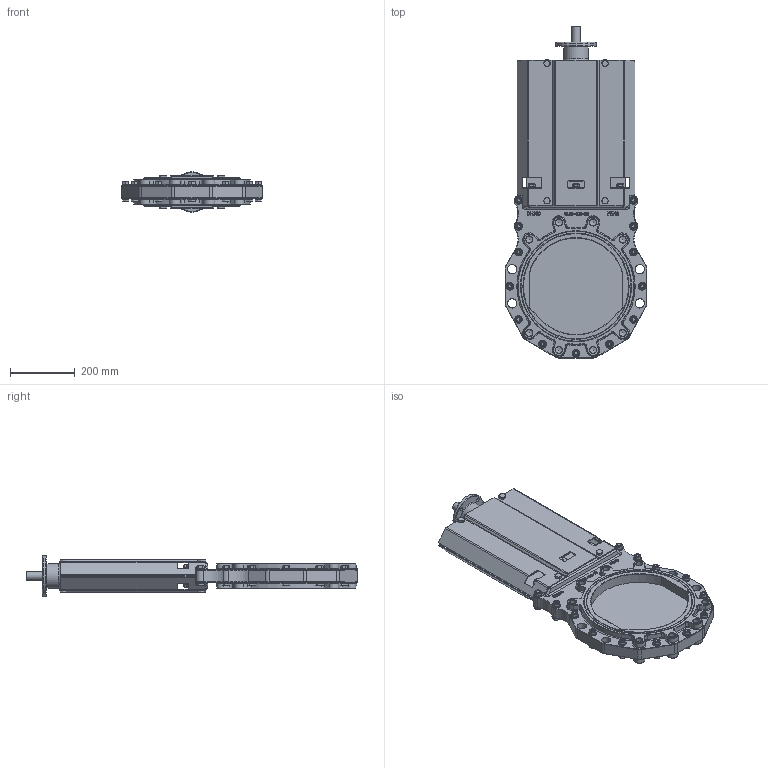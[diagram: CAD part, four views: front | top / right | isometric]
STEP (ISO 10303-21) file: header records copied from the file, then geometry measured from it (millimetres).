
FILE_DESCRIPTION(/* description */ (''),/* implementation_level */ '2;1');
FILE_NAME(/* name */ 'Rising stem knife gate valve with top flange DN300-16.stp',/* time_stamp */ '2025-04-21T17:23:06+08:00',/* author */ (''),/* organization */ (''),/* preprocessor_version */ 'ST-DEVELOPER v15',/* originating_system */ 'SIEMENS PLM Software NX 10.0',/* authorisation */ '');
FILE_SCHEMA (('AP203_CONFIGURATION_CONTROLLED_3D_DESIGN_OF_MECHANICAL_PARTS_AND_ASSEMBLIES_MIM_LF { 1 0 10303 403 2 1 2}'));
Products named in the file (1): Admi256412D81o0t
Bounding box: 440.03 x 1029.43 x 125 mm (x, y, z)
Volume: 9923682.9 mm3; surface area: 1630151.9 mm2
Topology: 1 solids, 18 shells, 2645 faces, 6384 edges, 3947 vertices
Faces by surface type: plane 1004, cylinder 718, cone 293, torus 256, bspline 212, extrusion 138, sphere 24
Full cylindrical faces by diameter (mm): 2 x4, 5.2 x1, 10.106 x6, 10.5 x2, 11.053 x17, 11.5 x4, 12 x32, 13 x36, 17.2 x21, 18 x2, 20 x6, 20.752 x16, 24 x32, 25 x1, 26 x1, 28 x8, 40 x1, 66 x1, 73 x1, 76 x1, 125 x1
Entity records: 79878 total; most frequent: CARTESIAN_POINT 21641, ORIENTED_EDGE 11822, DIRECTION 11310, EDGE_CURVE 5911, AXIS2_PLACEMENT_3D 4337, VERTEX_POINT 3887, EDGE_LOOP 3310, ADVANCED_FACE 2645
